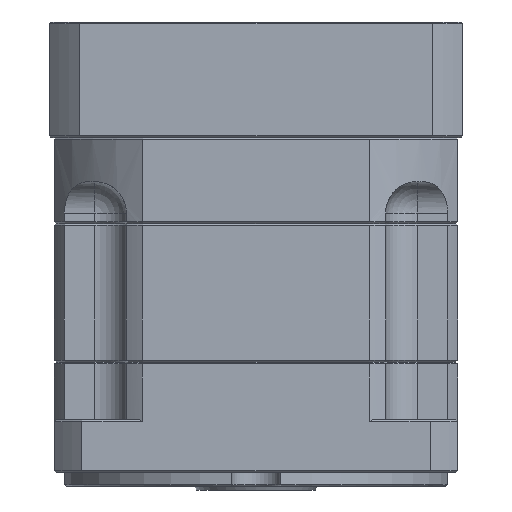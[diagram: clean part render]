
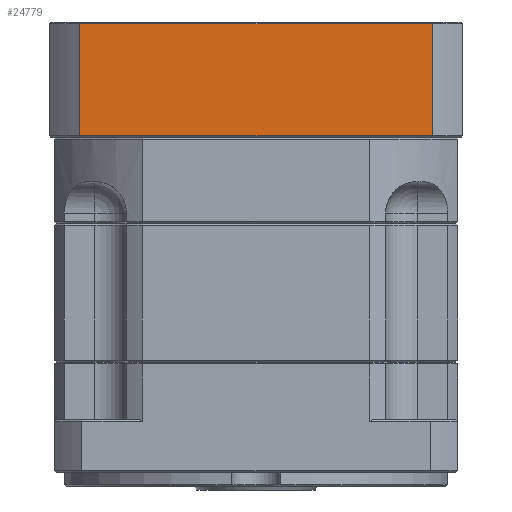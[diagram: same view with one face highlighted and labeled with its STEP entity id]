
A CAD part, left-side view. The second image highlights one B-rep face of the part: STEP entity #24779.
In plain terms, the highlighted planar face has unit normal (-1, 0, 0).
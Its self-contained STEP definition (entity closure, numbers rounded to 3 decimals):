
#786 = DIRECTION ( 'NONE',  ( 0., 0., -1. ) ) ;
#2038 = EDGE_CURVE ( 'NONE', #31156, #13989, #100322, .T. ) ;
#6581 = VECTOR ( 'NONE', #786, 1000. ) ;
#12381 = ORIENTED_EDGE ( 'NONE', *, *, #71182, .F. ) ;
#13989 = VERTEX_POINT ( 'NONE', #29507 ) ;
#14818 = DIRECTION ( 'NONE',  ( 1., 0., 0. ) ) ;
#15431 = LINE ( 'NONE', #110657, #93965 ) ;
#18404 = ORIENTED_EDGE ( 'NONE', *, *, #31278, .T. ) ;
#20986 = EDGE_LOOP ( 'NONE', ( #12381, #100323, #18404, #27193 ) ) ;
#24562 = LINE ( 'NONE', #62041, #76980 ) ;
#24779 = ADVANCED_FACE ( 'NONE', ( #47235 ), #58374, .F. ) ;
#25696 = CARTESIAN_POINT ( 'NONE',  ( -5.69, -22.161, -30.51 ) ) ;
#27193 = ORIENTED_EDGE ( 'NONE', *, *, #75191, .T. ) ;
#29507 = CARTESIAN_POINT ( 'NONE',  ( -5.69, 78.343, -30.51 ) ) ;
#31156 = VERTEX_POINT ( 'NONE', #25696 ) ;
#31278 = EDGE_CURVE ( 'NONE', #13989, #93936, #94698, .T. ) ;
#33197 = DIRECTION ( 'NONE',  ( 0., 1., 0. ) ) ;
#47235 = FACE_OUTER_BOUND ( 'NONE', #20986, .T. ) ;
#52821 = DIRECTION ( 'NONE',  ( 0., 1., 0. ) ) ;
#58190 = AXIS2_PLACEMENT_3D ( 'NONE', #67540, #14818, #33197 ) ;
#58374 = PLANE ( 'NONE',  #58190 ) ;
#62041 = CARTESIAN_POINT ( 'NONE',  ( -5.69, 78.343, -62.51 ) ) ;
#67540 = CARTESIAN_POINT ( 'NONE',  ( -5.69, 78.343, -30.01 ) ) ;
#69957 = VERTEX_POINT ( 'NONE', #93754 ) ;
#71182 = EDGE_CURVE ( 'NONE', #31156, #69957, #15431, .T. ) ;
#75191 = EDGE_CURVE ( 'NONE', #93936, #69957, #24562, .T. ) ;
#76980 = VECTOR ( 'NONE', #98136, 1000. ) ;
#85217 = VECTOR ( 'NONE', #52821, 1000. ) ;
#93388 = DIRECTION ( 'NONE',  ( 0., 0., -1. ) ) ;
#93754 = CARTESIAN_POINT ( 'NONE',  ( -5.69, -22.161, -62.51 ) ) ;
#93881 = CARTESIAN_POINT ( 'NONE',  ( -5.69, 78.343, -62.51 ) ) ;
#93936 = VERTEX_POINT ( 'NONE', #93881 ) ;
#93965 = VECTOR ( 'NONE', #93388, 1000. ) ;
#94698 = LINE ( 'NONE', #106162, #6581 ) ;
#98136 = DIRECTION ( 'NONE',  ( 0., -1., 0. ) ) ;
#100322 = LINE ( 'NONE', #106192, #85217 ) ;
#100323 = ORIENTED_EDGE ( 'NONE', *, *, #2038, .T. ) ;
#106162 = CARTESIAN_POINT ( 'NONE',  ( -5.69, 78.343, -30.01 ) ) ;
#106192 = CARTESIAN_POINT ( 'NONE',  ( -5.69, 78.343, -30.51 ) ) ;
#110657 = CARTESIAN_POINT ( 'NONE',  ( -5.69, -22.161, -30.01 ) ) ;
